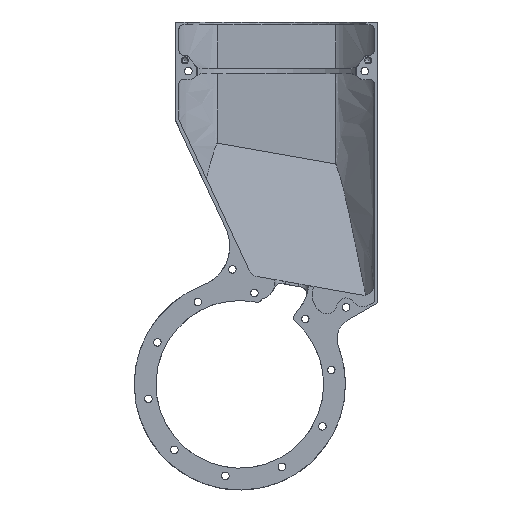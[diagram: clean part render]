
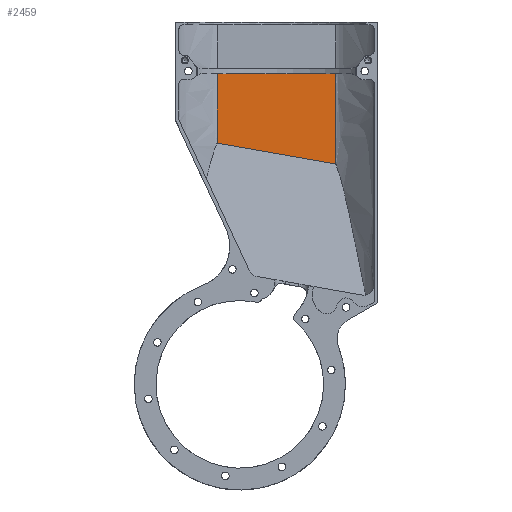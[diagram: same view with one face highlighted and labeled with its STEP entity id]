
A CAD part, left-side view. The second image highlights one B-rep face of the part: STEP entity #2459.
In plain terms, the highlighted planar face has unit normal (-1, 0, 0).
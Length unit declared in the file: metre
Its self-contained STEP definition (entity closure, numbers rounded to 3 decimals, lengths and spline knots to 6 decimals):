
#240=LINE('',#3539,#379);
#324=LINE('',#4620,#463);
#379=VECTOR('',#2853,1.);
#463=VECTOR('',#3135,1.);
#779=ORIENTED_EDGE('',*,*,#1454,.T.);
#780=ORIENTED_EDGE('',*,*,#1253,.T.);
#781=ORIENTED_EDGE('',*,*,#1455,.T.);
#782=ORIENTED_EDGE('',*,*,#1456,.T.);
#1253=EDGE_CURVE('',#1615,#1619,#240,.T.);
#1454=EDGE_CURVE('',#1787,#1615,#1919,.T.);
#1455=EDGE_CURVE('',#1619,#1788,#1920,.T.);
#1456=EDGE_CURVE('',#1788,#1787,#324,.T.);
#1615=VERTEX_POINT('',#3521);
#1619=VERTEX_POINT('',#3538);
#1787=VERTEX_POINT('',#4614);
#1788=VERTEX_POINT('',#4619);
#1919=B_SPLINE_CURVE_WITH_KNOTS('',3,(#4610,#4611,#4612,#4613),
 .UNSPECIFIED.,.F.,.F.,(4,4),(0.,0.646792),.UNSPECIFIED.);
#1920=B_SPLINE_CURVE_WITH_KNOTS('',3,(#4615,#4616,#4617,#4618),
 .UNSPECIFIED.,.F.,.F.,(4,4),(0.415234,1.),.UNSPECIFIED.);
#2022=EDGE_LOOP('',(#779,#780,#781,#782));
#2226=FACE_BOUND('',#2022,.T.);
#2403=PLANE('',#2684);
#2459=ADVANCED_FACE('',(#2226),#2403,.F.);
#2684=AXIS2_PLACEMENT_3D('',#4609,#3133,#3134);
#2853=DIRECTION('',(0.,1.,0.));
#3133=DIRECTION('',(1.,0.,0.));
#3134=DIRECTION('',(0.,1.,0.));
#3135=DIRECTION('',(0.,-0.985,-0.174));
#3521=CARTESIAN_POINT('',(0.1805,-0.0378,-0.270185));
#3538=CARTESIAN_POINT('',(0.1805,0.0298,-0.270185));
#3539=CARTESIAN_POINT('',(0.1805,-0.0383,-0.270185));
#4609=CARTESIAN_POINT('',(0.1805,-0.0383,-0.2395));
#4610=CARTESIAN_POINT('',(0.1805,-0.0378,-0.321796));
#4611=CARTESIAN_POINT('',(0.1805,-0.0378,-0.304592));
#4612=CARTESIAN_POINT('',(0.1805,-0.0378,-0.287389));
#4613=CARTESIAN_POINT('',(0.1805,-0.0378,-0.270185));
#4614=CARTESIAN_POINT('',(0.1805,-0.0378,-0.321796));
#4615=CARTESIAN_POINT('',(0.1805,0.0298,-0.270185));
#4616=CARTESIAN_POINT('',(0.1805,0.0298,-0.283415));
#4617=CARTESIAN_POINT('',(0.1805,0.0298,-0.296646));
#4618=CARTESIAN_POINT('',(0.1805,0.0298,-0.309877));
#4619=CARTESIAN_POINT('',(0.1805,0.0298,-0.309877));
#4620=CARTESIAN_POINT('',(0.1805,1.198077,-0.103878));
